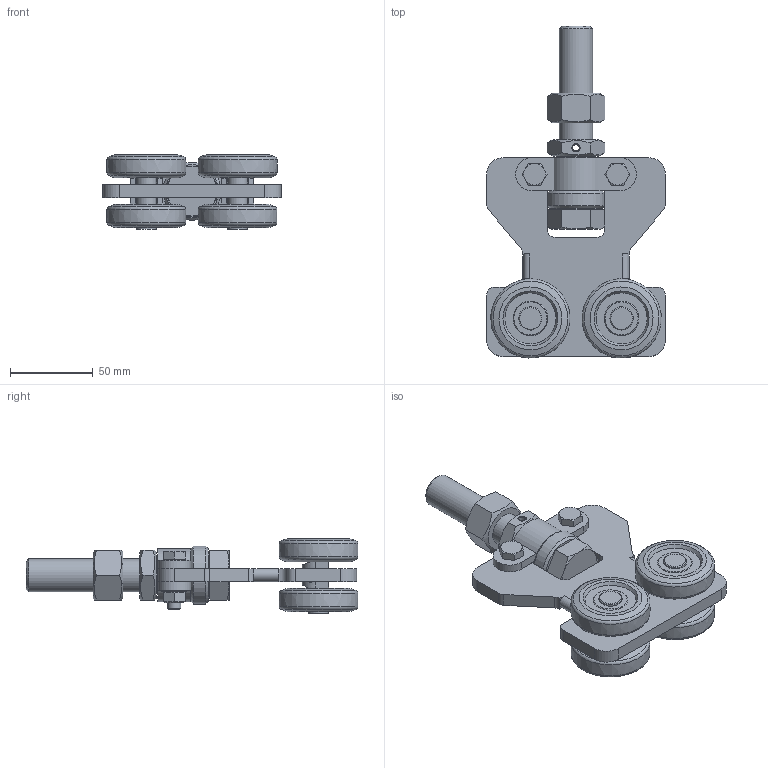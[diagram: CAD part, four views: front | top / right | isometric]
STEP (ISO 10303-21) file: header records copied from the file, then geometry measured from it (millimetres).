
FILE_DESCRIPTION(/* description */ ('Brennteil'),/* implementation_level */ '2;1');
FILE_NAME(/* name */ 'Q:\sge-ma\Produktmanagement-STB\STB\Workspace\stp\010336942.stp',/* time_stamp */ '2016-07-14T07:37:21+02:00',/* author */ ('avschreier'),/* organization */ (''),/* preprocessor_version */ 'ST-DEVELOPER v16.1',/* originating_system */ 'Autodesk Inventor 2016',/* authorisation */ '');
FILE_SCHEMA (('AUTOMOTIVE_DESIGN { 1 0 10303 214 3 1 1 }'));
Length unit declared in the file: millimetre
Products named in the file (14): 000302073; 000303237; 000302011; 000302031; 000304012; DIN_EN_ISO_4032-M20_en; DIN_EN_ISO_4032-M8_en; 336290030; DIN_EN_ISO_4035-M20_en; DIN_EN_ISO_4017-M20x110_en; DIN_6798-A_8,4_en; DIN_EN_ISO_4017-M8x30_en; ISO 13337-5x30_en; 010336942
Assembly tree (24 placements, depth 2):
  010336942
    000302073
    000303237  x4
    000302011
    000302031  x2
    000304012  x2
    DIN_EN_ISO_4032-M20_en
    DIN_EN_ISO_4032-M8_en  x2
    336290030  x4
    DIN_EN_ISO_4035-M20_en
    DIN_EN_ISO_4017-M20x110_en
    DIN_6798-A_8,4_en  x2
    DIN_EN_ISO_4017-M8x30_en  x2
    ISO 13337-5x30_en
Bounding box: 108 x 200.33 x 45 mm (x, y, z)
Volume: 251080.9 mm3; surface area: 85832.1 mm2
Topology: 26 solids, 26 shells, 632 faces, 1591 edges, 1031 vertices
Faces by surface type: plane 308, cylinder 198, cone 82, bspline 36, torus 8
Full cylindrical faces by diameter (mm): 5 x3, 6.647 x2, 7.323 x2, 8 x2, 8.4 x2, 8.7 x6, 11.4 x2, 12 x6, 14 x2, 17.294 x2, 18.647 x1, 20 x1, 20.5 x1, 27.7 x1, 35 x1
Entity records: 10982 total; most frequent: CARTESIAN_POINT 3010, DIRECTION 1668, ORIENTED_EDGE 1520, EDGE_CURVE 754, AXIS2_PLACEMENT_3D 643, VERTEX_POINT 521, EDGE_LOOP 415, LINE 382
